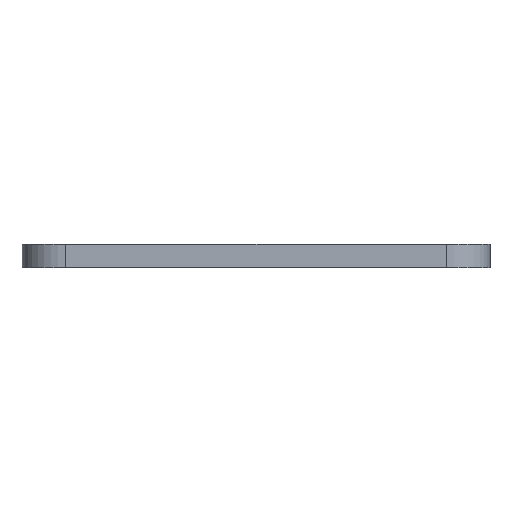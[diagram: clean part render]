
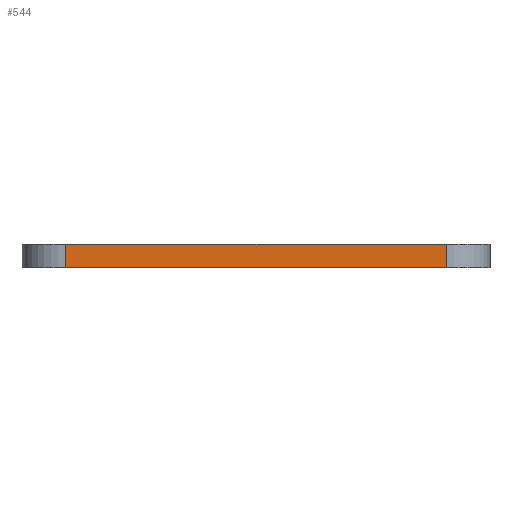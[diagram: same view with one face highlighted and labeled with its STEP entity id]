
A CAD part, left-side view. The second image highlights one B-rep face of the part: STEP entity #544.
In plain terms, the highlighted planar face has unit normal (-1, 0, 0).
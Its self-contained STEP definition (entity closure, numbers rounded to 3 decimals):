
#65 = EDGE_LOOP ( 'NONE', ( #345, #348, #356, #364 ) ) ;
#146 = AXIS2_PLACEMENT_3D ( 'NONE', #210, #1056, #1047 ) ;
#210 = CARTESIAN_POINT ( 'NONE',  ( -40., 32.5, 4. ) ) ;
#234 = LINE ( 'NONE', #623, #708 ) ;
#245 = FACE_OUTER_BOUND ( 'NONE', #65, .T. ) ;
#258 = CARTESIAN_POINT ( 'NONE',  ( -40., 32.5, 4. ) ) ;
#287 = CARTESIAN_POINT ( 'NONE',  ( -40., 32.5, 4. ) ) ;
#291 = LINE ( 'NONE', #258, #571 ) ;
#319 = CARTESIAN_POINT ( 'NONE',  ( -40., -32.5, 0. ) ) ;
#325 = VERTEX_POINT ( 'NONE', #426 ) ;
#345 = ORIENTED_EDGE ( 'NONE', *, *, #613, .T. ) ;
#348 = ORIENTED_EDGE ( 'NONE', *, *, #661, .F. ) ;
#356 = ORIENTED_EDGE ( 'NONE', *, *, #725, .F. ) ;
#364 = ORIENTED_EDGE ( 'NONE', *, *, #639, .T. ) ;
#379 = DIRECTION ( 'NONE',  ( 0., 0., -1. ) ) ;
#404 = VERTEX_POINT ( 'NONE', #319 ) ;
#409 = VERTEX_POINT ( 'NONE', #287 ) ;
#420 = CARTESIAN_POINT ( 'NONE',  ( -40., -32.5, 4. ) ) ;
#426 = CARTESIAN_POINT ( 'NONE',  ( -40., 32.5, 0. ) ) ;
#488 = DIRECTION ( 'NONE',  ( 0., 0., -1. ) ) ;
#490 = VERTEX_POINT ( 'NONE', #1040 ) ;
#519 = LINE ( 'NONE', #420, #915 ) ;
#544 = ADVANCED_FACE ( 'NONE', ( #245 ), #909, .F. ) ;
#571 = VECTOR ( 'NONE', #823, 1000. ) ;
#613 = EDGE_CURVE ( 'NONE', #325, #404, #673, .T. ) ;
#622 = VECTOR ( 'NONE', #752, 1000. ) ;
#623 = CARTESIAN_POINT ( 'NONE',  ( -40., 32.5, 4. ) ) ;
#639 = EDGE_CURVE ( 'NONE', #409, #325, #234, .T. ) ;
#661 = EDGE_CURVE ( 'NONE', #490, #404, #519, .T. ) ;
#673 = LINE ( 'NONE', #729, #622 ) ;
#708 = VECTOR ( 'NONE', #488, 1000. ) ;
#725 = EDGE_CURVE ( 'NONE', #409, #490, #291, .T. ) ;
#729 = CARTESIAN_POINT ( 'NONE',  ( -40., 32.5, 0. ) ) ;
#752 = DIRECTION ( 'NONE',  ( 0., -1., 0. ) ) ;
#823 = DIRECTION ( 'NONE',  ( 0., -1., 0. ) ) ;
#909 = PLANE ( 'NONE',  #146 ) ;
#915 = VECTOR ( 'NONE', #379, 1000. ) ;
#1040 = CARTESIAN_POINT ( 'NONE',  ( -40., -32.5, 4. ) ) ;
#1047 = DIRECTION ( 'NONE',  ( 0., 0., -1. ) ) ;
#1056 = DIRECTION ( 'NONE',  ( 1., 0., 0. ) ) ;
